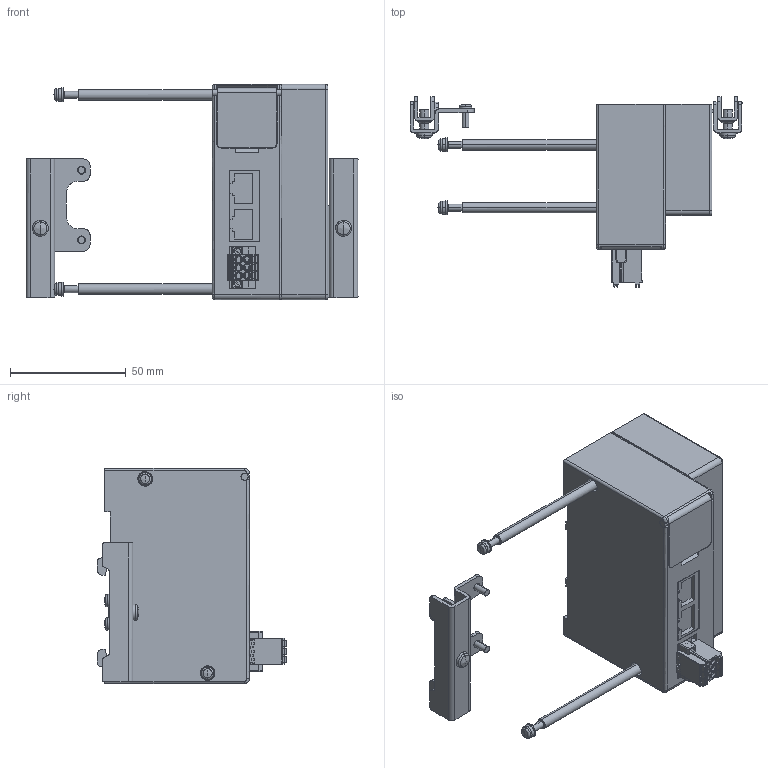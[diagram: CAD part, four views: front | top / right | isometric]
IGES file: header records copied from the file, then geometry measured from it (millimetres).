
Start section: ------------------------------------------------------------------------
Bounding box: 143.5 x 82.1 x 93 mm (x, y, z)
Volume: 265671.5 mm3; surface area: 46922.3 mm2
Topology: 3 solids, 3 shells, 971 faces, 2541 edges, 1629 vertices
Faces by surface type: bspline 971
